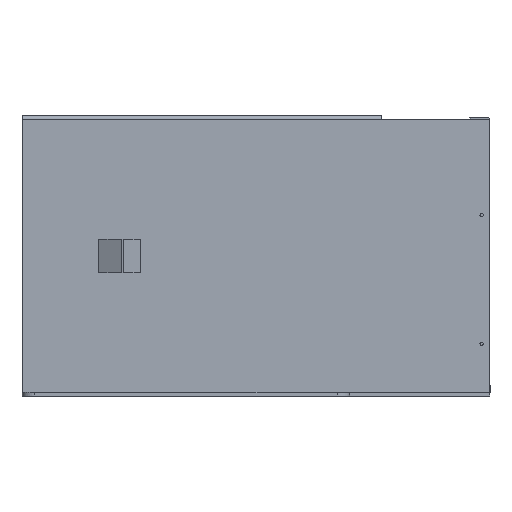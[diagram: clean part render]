
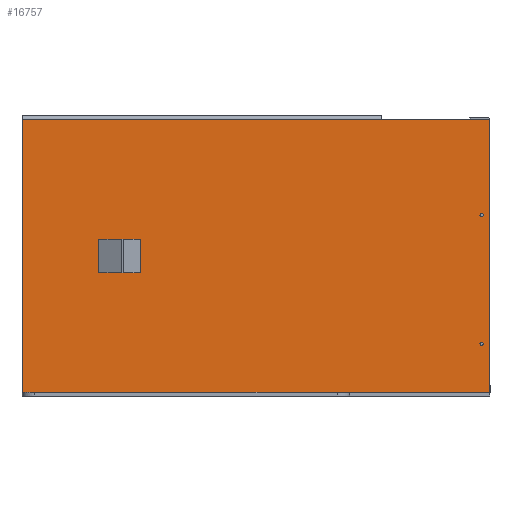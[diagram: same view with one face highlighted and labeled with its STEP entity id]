
A CAD part, left-side view. The second image highlights one B-rep face of the part: STEP entity #16757.
In plain terms, the highlighted planar face has unit normal (-1, 0, 0).
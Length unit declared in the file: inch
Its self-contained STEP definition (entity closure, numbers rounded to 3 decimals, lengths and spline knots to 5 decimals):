
#24 = VERTEX_POINT ( 'NONE', #4856 ) ;
#36 = AXIS2_PLACEMENT_3D ( 'NONE', #1426, #2956, #17466 ) ;
#389 = EDGE_CURVE ( 'NONE', #15621, #24, #8347, .T. ) ;
#715 = FACE_BOUND ( 'NONE', #7360, .T. ) ;
#830 = DIRECTION ( 'NONE',  ( 0., -1., 0. ) ) ;
#1171 = ORIENTED_EDGE ( 'NONE', *, *, #6399, .F. ) ;
#1426 = CARTESIAN_POINT ( 'NONE',  ( -5., -7.355, -7.42608 ) ) ;
#1451 = AXIS2_PLACEMENT_3D ( 'NONE', #6437, #10820, #15177 ) ;
#1579 = CARTESIAN_POINT ( 'NONE',  ( -5., 7.625, 0. ) ) ;
#1738 = AXIS2_PLACEMENT_3D ( 'NONE', #16093, #11851, #8881 ) ;
#1745 = VERTEX_POINT ( 'NONE', #9578 ) ;
#1988 = CARTESIAN_POINT ( 'NONE',  ( -5., 0., -9. ) ) ;
#2149 = LINE ( 'NONE', #7574, #12128 ) ;
#2260 = VERTEX_POINT ( 'NONE', #14205 ) ;
#2381 = ORIENTED_EDGE ( 'NONE', *, *, #16337, .T. ) ;
#2426 = DIRECTION ( 'NONE',  ( 0., 0., -1. ) ) ;
#2956 = DIRECTION ( 'NONE',  ( 1., 0., 0. ) ) ;
#3246 = ORIENTED_EDGE ( 'NONE', *, *, #389, .T. ) ;
#3563 = CIRCLE ( 'NONE', #1738, 0.055 ) ;
#3583 = VECTOR ( 'NONE', #7986, 39.37008 ) ;
#3588 = FACE_BOUND ( 'NONE', #6375, .T. ) ;
#3618 = VERTEX_POINT ( 'NONE', #16001 ) ;
#3829 = VERTEX_POINT ( 'NONE', #10708 ) ;
#4019 = EDGE_CURVE ( 'NONE', #7658, #14990, #5822, .T. ) ;
#4856 = CARTESIAN_POINT ( 'NONE',  ( -5., -7.355, -3.28392 ) ) ;
#5095 = CARTESIAN_POINT ( 'NONE',  ( -5., -7.355, -7.42608 ) ) ;
#5194 = EDGE_CURVE ( 'NONE', #14990, #7658, #12287, .T. ) ;
#5278 = EDGE_LOOP ( 'NONE', ( #1171, #12304, #12022, #2381, #6877 ) ) ;
#5822 = CIRCLE ( 'NONE', #36, 0.055 ) ;
#6231 = DIRECTION ( 'NONE',  ( 0., -1., 0. ) ) ;
#6375 = EDGE_LOOP ( 'NONE', ( #18628, #3246 ) ) ;
#6399 = EDGE_CURVE ( 'NONE', #2260, #15590, #2149, .T. ) ;
#6437 = CARTESIAN_POINT ( 'NONE',  ( -5., 0., 0. ) ) ;
#6534 = LINE ( 'NONE', #12443, #7716 ) ;
#6740 = CARTESIAN_POINT ( 'NONE',  ( -5., -7.62618, 0. ) ) ;
#6877 = ORIENTED_EDGE ( 'NONE', *, *, #7495, .F. ) ;
#7165 = VECTOR ( 'NONE', #16021, 39.37008 ) ;
#7360 = EDGE_LOOP ( 'NONE', ( #16626, #14603 ) ) ;
#7495 = EDGE_CURVE ( 'NONE', #15590, #3618, #6534, .T. ) ;
#7574 = CARTESIAN_POINT ( 'NONE',  ( -5., -7.62618, -0.1 ) ) ;
#7658 = VERTEX_POINT ( 'NONE', #9581 ) ;
#7702 = DIRECTION ( 'NONE',  ( 0., -1., 0. ) ) ;
#7716 = VECTOR ( 'NONE', #830, 39.37008 ) ;
#7986 = DIRECTION ( 'NONE',  ( 0., 0., 1. ) ) ;
#8347 = CIRCLE ( 'NONE', #18038, 0.055 ) ;
#8584 = CARTESIAN_POINT ( 'NONE',  ( -5., -7.355, -3.17392 ) ) ;
#8881 = DIRECTION ( 'NONE',  ( 0., 0., -1. ) ) ;
#8945 = AXIS2_PLACEMENT_3D ( 'NONE', #5095, #15241, #2426 ) ;
#9199 = PLANE ( 'NONE',  #1451 ) ;
#9578 = CARTESIAN_POINT ( 'NONE',  ( -5., 7.625, -9. ) ) ;
#9581 = CARTESIAN_POINT ( 'NONE',  ( -5., -7.355, -7.48108 ) ) ;
#10708 = CARTESIAN_POINT ( 'NONE',  ( -5., -7.62618, -9. ) ) ;
#10820 = DIRECTION ( 'NONE',  ( 1., 0., 0. ) ) ;
#11017 = CARTESIAN_POINT ( 'NONE',  ( -5., -7.355, -3.22892 ) ) ;
#11851 = DIRECTION ( 'NONE',  ( 1., 0., 0. ) ) ;
#12022 = ORIENTED_EDGE ( 'NONE', *, *, #14511, .T. ) ;
#12128 = VECTOR ( 'NONE', #6231, 39.37008 ) ;
#12287 = CIRCLE ( 'NONE', #8945, 0.055 ) ;
#12304 = ORIENTED_EDGE ( 'NONE', *, *, #13419, .T. ) ;
#12336 = DIRECTION ( 'NONE',  ( 0., 0., -1. ) ) ;
#12443 = CARTESIAN_POINT ( 'NONE',  ( -5., -7.62618, -0.1 ) ) ;
#13419 = EDGE_CURVE ( 'NONE', #2260, #1745, #17347, .T. ) ;
#13758 = DIRECTION ( 'NONE',  ( 1., 0., 0. ) ) ;
#14205 = CARTESIAN_POINT ( 'NONE',  ( -5., 7.625, -0.1 ) ) ;
#14511 = EDGE_CURVE ( 'NONE', #1745, #3829, #16435, .T. ) ;
#14603 = ORIENTED_EDGE ( 'NONE', *, *, #5194, .T. ) ;
#14894 = CARTESIAN_POINT ( 'NONE',  ( -5., -7.355, -7.37108 ) ) ;
#14990 = VERTEX_POINT ( 'NONE', #14894 ) ;
#15106 = LINE ( 'NONE', #6740, #3583 ) ;
#15177 = DIRECTION ( 'NONE',  ( 0., 0., -1. ) ) ;
#15241 = DIRECTION ( 'NONE',  ( 1., 0., 0. ) ) ;
#15399 = VECTOR ( 'NONE', #7702, 39.37008 ) ;
#15590 = VERTEX_POINT ( 'NONE', #15786 ) ;
#15621 = VERTEX_POINT ( 'NONE', #8584 ) ;
#15747 = EDGE_CURVE ( 'NONE', #24, #15621, #3563, .T. ) ;
#15786 = CARTESIAN_POINT ( 'NONE',  ( -5., -4.09721, -0.1 ) ) ;
#16001 = CARTESIAN_POINT ( 'NONE',  ( -5., -7.62618, -0.1 ) ) ;
#16021 = DIRECTION ( 'NONE',  ( 0., 0., -1. ) ) ;
#16093 = CARTESIAN_POINT ( 'NONE',  ( -5., -7.355, -3.22892 ) ) ;
#16337 = EDGE_CURVE ( 'NONE', #3829, #3618, #15106, .T. ) ;
#16435 = LINE ( 'NONE', #1988, #15399 ) ;
#16626 = ORIENTED_EDGE ( 'NONE', *, *, #4019, .T. ) ;
#16757 = ADVANCED_FACE ( 'NONE', ( #715, #3588, #17917 ), #9199, .F. ) ;
#17347 = LINE ( 'NONE', #1579, #7165 ) ;
#17466 = DIRECTION ( 'NONE',  ( 0., 0., -1. ) ) ;
#17917 = FACE_OUTER_BOUND ( 'NONE', #5278, .T. ) ;
#18038 = AXIS2_PLACEMENT_3D ( 'NONE', #11017, #13758, #12336 ) ;
#18628 = ORIENTED_EDGE ( 'NONE', *, *, #15747, .T. ) ;
